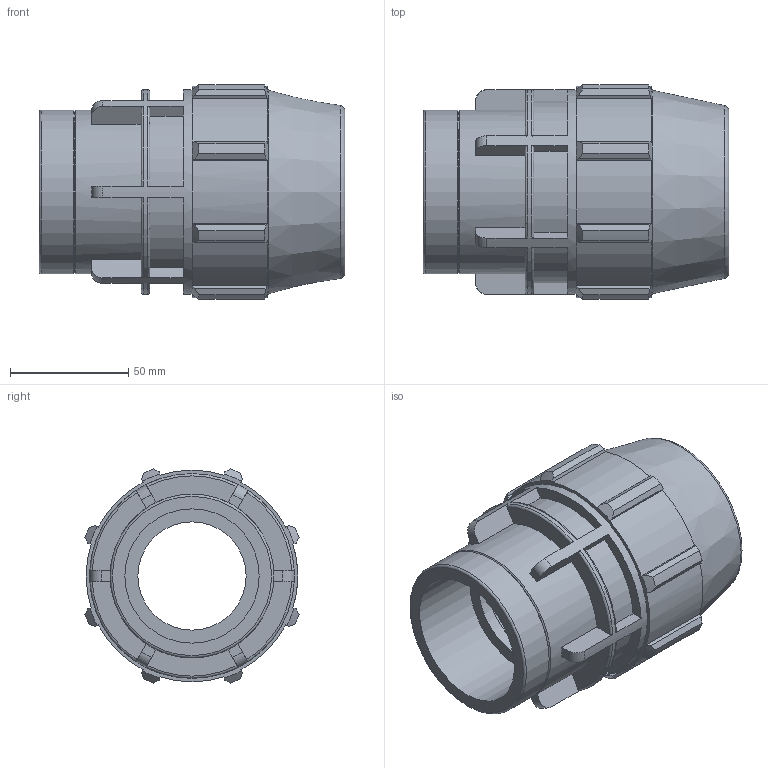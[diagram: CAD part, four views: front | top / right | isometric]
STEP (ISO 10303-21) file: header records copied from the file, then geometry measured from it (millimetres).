
FILE_DESCRIPTION(/* description */ ('PLASSON FEMALE ADAPTOR G 1 1/2'''' - 2''''F'),/* implementation_level */ '2;1');
FILE_NAME(/* name */ 'C:\Dropbox\KIMPROJECTS-Inventor 2019\99-16-3568-Processing Inch\ASTM Compression 2021\0703M0T\0703M0T15020.ipt.stp',/* time_stamp */ '2021-08-26T12:31:10+03:00',/* author */ ('KIM'),/* organization */ (''),/* preprocessor_version */ 'ST-DEVELOPER v17.2',/* originating_system */ 'Autodesk Inventor 2019',/* authorisation */ '');
FILE_SCHEMA (('AUTOMOTIVE_DESIGN { 1 0 10303 214 3 1 1 }'));
Length unit declared in the file: inch
Products named in the file (1): 0703M0T15020
Bounding box: 129.03 x 90.34 x 90.34 mm (x, y, z)
Volume: 382286.1 mm3; surface area: 66628.6 mm2
Topology: 1 solids, 1 shells, 148 faces, 420 edges, 284 vertices
Faces by surface type: plane 86, cylinder 28, torus 20, cone 14
Full cylindrical faces by diameter (mm): 45.695 x1, 48.1 x1, 56.656 x1, 69.129 x2, 86.411 x1
Entity records: 5404 total; most frequent: CARTESIAN_POINT 1337, ORIENTED_EDGE 840, DIRECTION 798, EDGE_CURVE 420, AXIS2_PLACEMENT_3D 297, VERTEX_POINT 284, LINE 204, VECTOR 204
